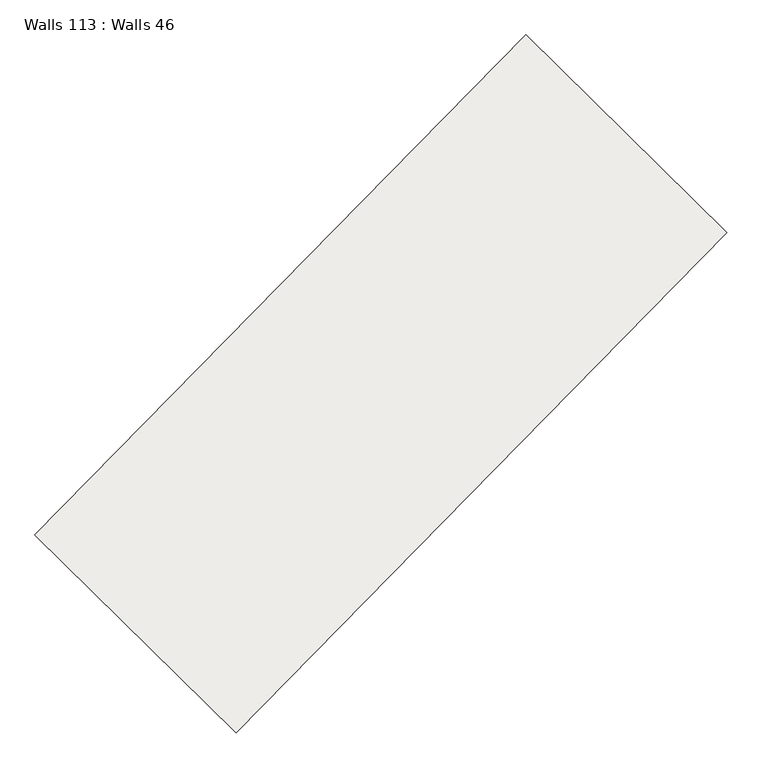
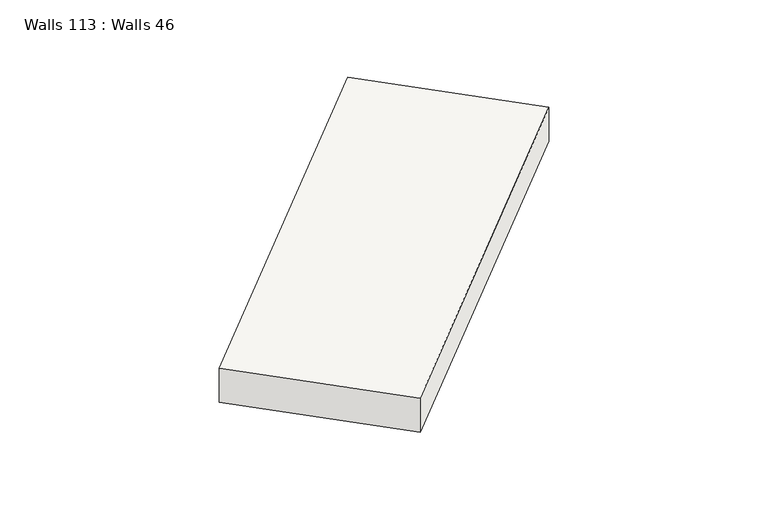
"""IFC4 building model written with IfcOpenShell, lengths in millimetres: slab geometry, Walls 113 : Walls 46."""

from ifc_helpers import new_model, si_unit, frame, origin, place, context, project, spatial, polyline, outline, extrude, source, transform, mapped, element, save


def walls_113_walls_46_e242b575(model_context):
    return source(origin(), model_context, "Body", "SweptSolid", [
        extrude(outline(polyline([(-350.0, 0.0), (350.0, 0.0), (260.0, -8699.9999996), (-440.0, -8699.9999996), (-350.0, 0.0)])), frame((-103612.8938963, -264785.6866284, 636940.0), z_axis=(-0.7137361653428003, 0.7004146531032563, 0.0), x_axis=(0.0, 0.0, 1.0)), (0.0, 0.0, 1.0), 3499.999995),
    ])


if __name__ == "__main__":
    model = new_model("IFC4")
    model_context = context("Model", 3, world=origin())
    ifc_project = project(units=[si_unit("LENGTHUNIT", "METRE", prefix="MILLI")], contexts=[model_context])
    site = spatial("IfcSite", under=ifc_project)
    building = spatial("IfcBuilding", under=site)
    placement = place(None, origin())
    walls_113_walls_46_shape = walls_113_walls_46_e242b575(model_context)
    element("IfcSlab", 1, ObjectType="Walls 113 : Walls 46", at=placement, inside=building, context=model_context, shape_type="MappedRepresentation", body=[
        mapped(walls_113_walls_46_shape, transform((0.0, 0.0, 0.0), x_axis=(1.0, 0.0, 0.0), y_axis=(0.0, 1.0, 0.0), z_axis=(0.0, 0.0, 1.0))),
    ])
    save(model, "model.ifc")
